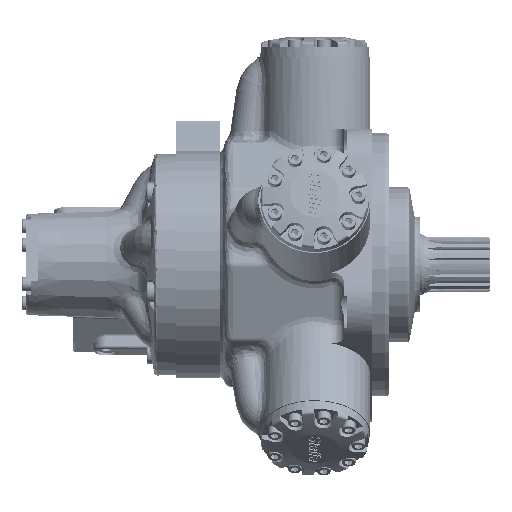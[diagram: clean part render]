
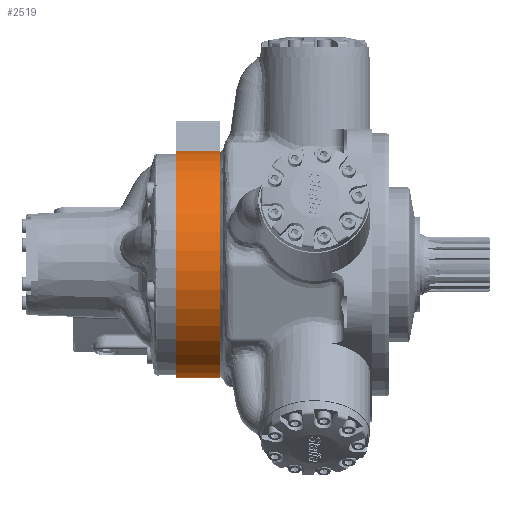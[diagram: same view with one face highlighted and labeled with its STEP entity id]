
A CAD part, front view. The second image highlights one B-rep face of the part: STEP entity #2519.
In plain terms, the highlighted cylindrical face has radius 130.175 mm (diameter 260.35 mm), a partial arc.
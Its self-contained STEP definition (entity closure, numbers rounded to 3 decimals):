
#101=CARTESIAN_POINT('',(-108.268,-10.639,129.739));
#102=VERTEX_POINT('',#101);
#103=CARTESIAN_POINT('',(-108.268,84.866,98.708));
#104=VERTEX_POINT('',#103);
#105=CARTESIAN_POINT('',(-108.267,0.,0.));
#106=DIRECTION('',(1.,0.,0.));
#107=DIRECTION('',(0.,-0.309,-0.951));
#108=AXIS2_PLACEMENT_3D('',#105,#106,#107);
#109=CIRCLE('',#108,130.175);
#110=EDGE_CURVE('',#102,#104,#109,.T.);
#223=CARTESIAN_POINT('',(-159.068,-10.639,129.739));
#224=VERTEX_POINT('',#223);
#306=CARTESIAN_POINT('',(-159.068,84.866,98.708));
#307=VERTEX_POINT('',#306);
#315=CARTESIAN_POINT('',(-159.067,0.,0.));
#316=DIRECTION('',(1.,0.,0.));
#317=DIRECTION('',(0.,-0.309,-0.951));
#318=AXIS2_PLACEMENT_3D('',#315,#316,#317);
#319=CIRCLE('',#318,130.175);
#320=EDGE_CURVE('',#224,#307,#319,.T.);
#2401=CARTESIAN_POINT('',(-159.068,-10.639,129.739));
#2402=DIRECTION('',(1.0,0.0,0.0));
#2403=VECTOR('',#2402,50.8);
#2404=LINE('',#2401,#2403);
#2405=EDGE_CURVE('',#224,#102,#2404,.T.);
#2440=CARTESIAN_POINT('',(-108.268,84.866,98.708));
#2441=DIRECTION('',(-1.0,0.0,0.0));
#2442=VECTOR('',#2441,50.8);
#2443=LINE('',#2440,#2442);
#2444=EDGE_CURVE('',#104,#307,#2443,.T.);
#2508=CARTESIAN_POINT('',(-133.667,0.,0.));
#2509=DIRECTION('',(1.0,0.,0.));
#2510=DIRECTION('',(0.,-0.309,-0.951));
#2511=AXIS2_PLACEMENT_3D('',#2508,#2509,#2510);
#2512=CYLINDRICAL_SURFACE('',#2511,130.175);
#2513=ORIENTED_EDGE('',*,*,#2405,.F.);
#2514=ORIENTED_EDGE('',*,*,#320,.T.);
#2515=ORIENTED_EDGE('',*,*,#2444,.F.);
#2516=ORIENTED_EDGE('',*,*,#110,.F.);
#2517=EDGE_LOOP('',(#2513,#2514,#2515,#2516));
#2518=FACE_OUTER_BOUND('',#2517,.T.);
#2519=ADVANCED_FACE('',(#2518),#2512,.T.);
